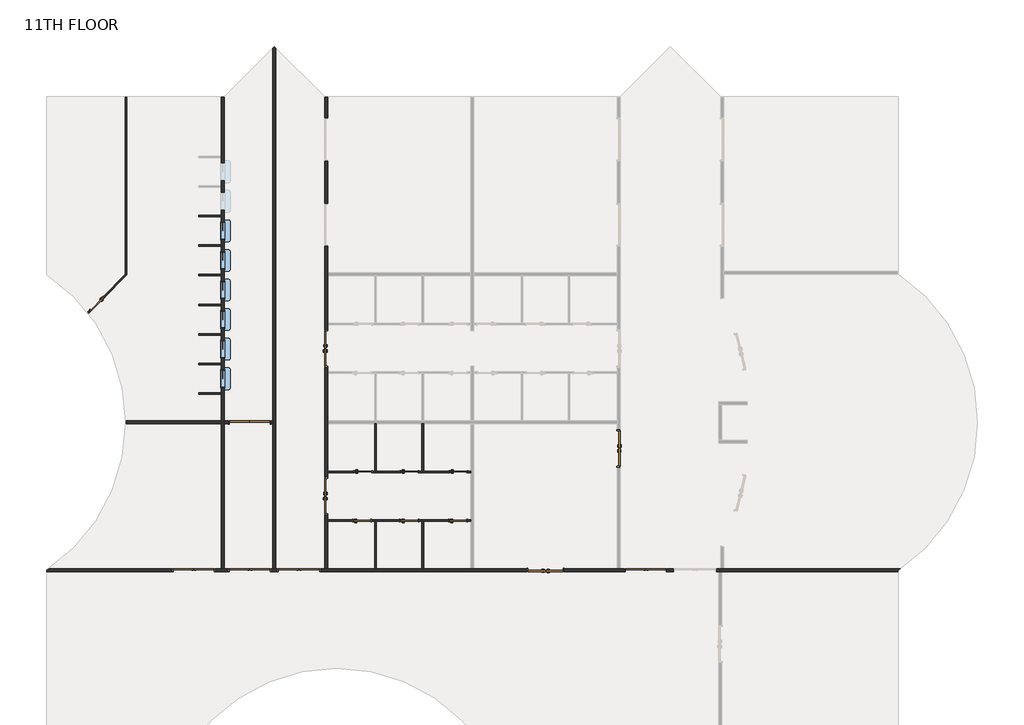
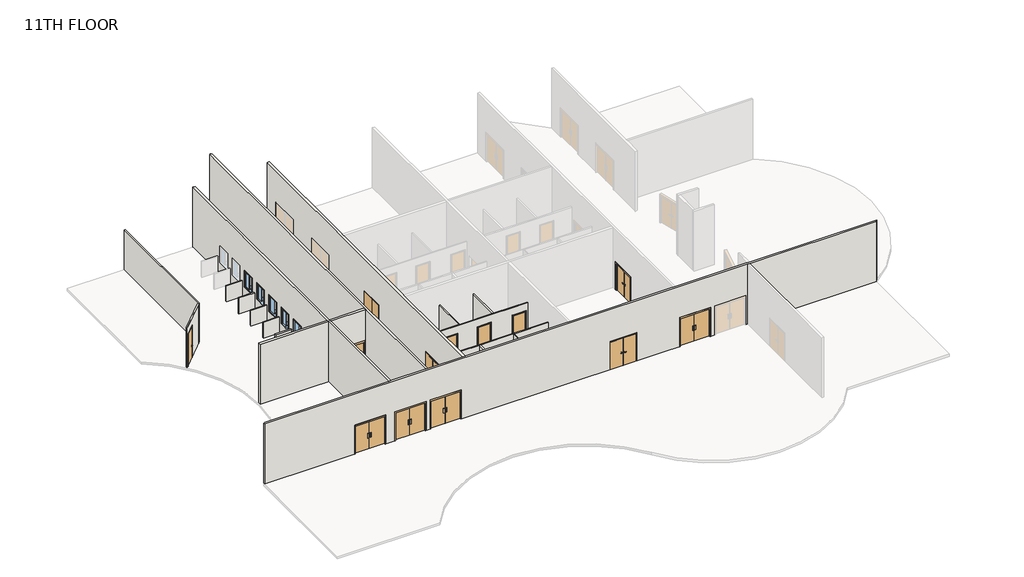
# One storey, part 1 of 2: 20 walls, 16 doors, 6 windows.
"""IFC4 building model written with IfcOpenShell, lengths in millimetres."""

from ifc_helpers import new_model, si_unit, point, frame, frame_2d, origin, place, context, project, spatial, polyline, circle_curve, trimmed, segment, composite_curve, outline, extrude, faceted_brep, transform, mapped, element, save
from ifc_brep_helpers import plane_surface, cylinder_surface, revolved_surface, advanced_brep
from components import door_2f250f70, door_0b13e4d9, door_b3a27a16, door_979b1b8c, door_f8b587be, pass_thru_4x3_19d81059

model = new_model("IFC4")

# Units and contexts
model_context = context("Model", 3, world=origin())
ifc_project = project(units=[si_unit("LENGTHUNIT", "METRE", prefix="MILLI")], contexts=[model_context])

# Site, building, storey
site = spatial("IfcSite", under=ifc_project)
building = spatial("IfcBuilding", under=site)
storey = spatial("IfcBuildingStorey", under=building, Name="11TH FLOOR", Elevation=50292.0)

# Doors
placement = place(None, origin())
door_shape = door_2f250f70(model_context)
element("IfcDoor", 1, ObjectType="Door-Passage-Double-Flush : 72\" x 82\"", at=placement, inside=storey, context=model_context, shape_type="MappedRepresentation", body=[
    mapped(door_shape, transform((14556.3400257, 13109.575, 50292.0), x_axis=(0.0, 1.0, 0.0), y_axis=(-1.0, 0.0, 0.0), z_axis=(0.0, 0.0, 1.0))),
])
element("IfcDoor", 2, ObjectType="Door-Passage-Double-Flush : 72\" x 82\"", at=placement, inside=storey, context=model_context, shape_type="MappedRepresentation", body=[
    mapped(door_shape, transform((14556.3400257, 20729.575, 50292.0), x_axis=(0.0, 1.0, 0.0), y_axis=(-1.0, 0.0, 0.0), z_axis=(0.0, 0.0, 1.0))),
])
element("IfcDoor", 3, ObjectType="Door-Passage-Double-Flush : 72\" x 82\"", at=placement, inside=storey, context=model_context, shape_type="MappedRepresentation", body=[
    mapped(door_shape, transform((25872.8337757, 9305.925, 50292.0), x_axis=(-1.0, 0.0, 0.0), y_axis=(0.0, -1.0, 0.0), z_axis=(0.0, 0.0, 1.0))),
])
element("IfcDoor", 4, ObjectType="Door-Passage-Double-Flush : 72\" x 82\"", at=placement, inside=storey, context=model_context, shape_type="MappedRepresentation", body=[
    mapped(door_shape, transform((29628.0650257, 15571.7875, 50292.0), x_axis=(0.0, -1.0, 0.0), y_axis=(1.0, 0.0, 0.0), z_axis=(0.0, 0.0, 1.0))),
])
door_2_shape = door_0b13e4d9(model_context)
element("IfcDoor", 5, ObjectType="Door-Passage-Double-Flush-Dbl_Acting : 84\" x 84\"", at=placement, inside=storey, context=model_context, shape_type="MappedRepresentation", body=[
    mapped(door_2_shape, transform((13151.4025257, 9293.225, 50292.0), x_axis=(-1.0, 0.0, 0.0), y_axis=(0.0, -1.0, 0.0), z_axis=(0.0, 0.0, 1.0))),
])
door_3_shape = door_b3a27a16(model_context)
element("IfcDoor", 6, ObjectType="Door-Passage-Double-Flush-Dbl_Acting : 84\" x 84\"", at=placement, inside=storey, context=model_context, shape_type="MappedRepresentation", body=[
    mapped(door_3_shape, transform((31033.0025257, 9293.225, 50292.0), x_axis=(1.0, 0.0, 0.0), y_axis=(0.0, 1.0, 0.0), z_axis=(0.0, 0.0, 1.0))),
])
element("IfcDoor", 7, ObjectType="Door-Passage-Double-Flush-Dbl_Acting : 84\" x 84\"", at=placement, inside=storey, context=model_context, shape_type="MappedRepresentation", body=[
    mapped(door_3_shape, transform((10620.375, 9293.225, 50292.0), x_axis=(1.0, 0.0, 0.0), y_axis=(0.0, 1.0, 0.0), z_axis=(0.0, 0.0, 1.0))),
])
element("IfcDoor", 8, ObjectType="Door-Passage-Double-Flush-Dbl_Acting : 84\" x 84\"", at=placement, inside=storey, context=model_context, shape_type="MappedRepresentation", body=[
    mapped(door_3_shape, transform((7730.5724743, 9293.225, 50292.0), x_axis=(1.0, 0.0, 0.0), y_axis=(0.0, 1.0, 0.0), z_axis=(0.0, 0.0, 1.0))),
])
element("IfcDoor", 9, ObjectType="Door-Passage-Double-Flush-Dbl_Acting : 84\" x 84\"", at=placement, inside=storey, context=model_context, shape_type="MappedRepresentation", body=[
    mapped(door_3_shape, transform((10620.375, 16913.225, 50292.0), x_axis=(1.0, 0.0, 0.0), y_axis=(0.0, 1.0, 0.0), z_axis=(0.0, 0.0, 1.0))),
])
door_4_shape = door_979b1b8c(model_context)
element("IfcDoor", 10, ObjectType="Door-Passage-Single-Flush : 36\" x 96\"", at=placement, inside=storey, context=model_context, shape_type="MappedRepresentation", body=[
    mapped(door_4_shape, transform((16456.5775257, 14357.35, 50292.0), x_axis=(1.0, 0.0, 0.0), y_axis=(0.0, 1.0, 0.0), z_axis=(0.0, 0.0, 1.0))),
])
element("IfcDoor", 11, ObjectType="Door-Passage-Single-Flush : 36\" x 96\"", at=placement, inside=storey, context=model_context, shape_type="MappedRepresentation", body=[
    mapped(door_4_shape, transform((18855.2900257, 14357.35, 50292.0), x_axis=(1.0, 0.0, 0.0), y_axis=(0.0, 1.0, 0.0), z_axis=(0.0, 0.0, 1.0))),
])
element("IfcDoor", 12, ObjectType="Door-Passage-Single-Flush : 36\" x 96\"", at=placement, inside=storey, context=model_context, shape_type="MappedRepresentation", body=[
    mapped(door_4_shape, transform((21373.0650257, 14357.35, 50292.0), x_axis=(1.0, 0.0, 0.0), y_axis=(0.0, 1.0, 0.0), z_axis=(0.0, 0.0, 1.0))),
])
element("IfcDoor", 13, ObjectType="Door-Passage-Single-Flush : 36\" x 96\"", at=placement, inside=storey, context=model_context, shape_type="MappedRepresentation", body=[
    mapped(door_4_shape, transform((2731.3607977, 23031.2061406, 50292.0), x_axis=(-0.7071067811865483, -0.7071067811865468, 0.0), y_axis=(0.7071067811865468, -0.7071067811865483, 0.0), z_axis=(0.0, 0.0, 1.0))),
])
door_5_shape = door_f8b587be(model_context)
element("IfcDoor", 14, ObjectType="Door-Passage-Single-Flush : 36\" x 96\"", at=placement, inside=storey, context=model_context, shape_type="MappedRepresentation", body=[
    mapped(door_5_shape, transform((16405.7775257, 11861.8, 50292.0), x_axis=(1.0, 0.0, 0.0), y_axis=(0.0, 1.0, 0.0), z_axis=(0.0, 0.0, 1.0))),
])
element("IfcDoor", 15, ObjectType="Door-Passage-Single-Flush : 36\" x 96\"", at=placement, inside=storey, context=model_context, shape_type="MappedRepresentation", body=[
    mapped(door_5_shape, transform((18836.2400257, 11861.8, 50292.0), x_axis=(1.0, 0.0, 0.0), y_axis=(0.0, 1.0, 0.0), z_axis=(0.0, 0.0, 1.0))),
])
element("IfcDoor", 16, ObjectType="Door-Passage-Single-Flush : 36\" x 96\"", at=placement, inside=storey, context=model_context, shape_type="MappedRepresentation", body=[
    mapped(door_5_shape, transform((21354.0150257, 11861.8, 50292.0), x_axis=(1.0, 0.0, 0.0), y_axis=(0.0, 1.0, 0.0), z_axis=(0.0, 0.0, 1.0))),
])

# Walls
element("IfcWall", 17, ObjectType="SYR_INT_ONE_HOUR", at=placement, inside=storey, context=model_context, shape_type="SweptSolid", body=[
    extrude(outline(polyline([(17066.1775257, 14403.3875), (17066.1775257, 16841.7875), (17145.5525257, 16841.7875), (17145.5525257, 14403.3875), (17066.1775257, 14403.3875)])), frame((0.0, 0.0, 50292.0), z_axis=(0.0, 0.0, 1.0), x_axis=(1.0, 0.0, 0.0)), (0.0, 0.0, 1.0), 3048.0),
])
element("IfcWall", 18, ObjectType="SYR_INT_ONE_HOUR", at=placement, inside=storey, context=model_context, shape_type="SweptSolid", body=[
    extrude(outline(polyline([(19576.0150257, 11815.7625), (19576.0150257, 9377.3625), (19496.6400257, 9377.3625), (19496.6400257, 11815.7625), (19576.0150257, 11815.7625)])), frame((0.0, 0.0, 50292.0), z_axis=(0.0, 0.0, 1.0), x_axis=(1.0, 0.0, 0.0)), (0.0, 0.0, 1.0), 3048.0),
])
element("IfcWall", 19, ObjectType="SYR_INT_ONE_HOUR", at=placement, inside=storey, context=model_context, shape_type="Brep", body=[
    faceted_brep([(14627.7775257, 14403.3875, 53340.0), (17066.1775257, 14403.3875, 53340.0), (17145.5525257, 14403.3875, 53340.0), (19496.6400257, 14403.3875, 53340.0), (19576.0150257, 14403.3875, 53340.0), (22014.4150257, 14403.3875, 53340.0), (22014.4150257, 14403.3875, 50292.0), (21862.0150257, 14403.3875, 50292.0), (21862.0150257, 14403.3875, 52762.15), (20884.1150257, 14403.3875, 52762.15), (20884.1150257, 14403.3875, 50292.0), (19576.0150257, 14403.3875, 50292.0), (19496.6400257, 14403.3875, 50292.0), (19344.2400257, 14403.3875, 50292.0), (19344.2400257, 14403.3875, 52762.15), (18366.3400257, 14403.3875, 52762.15), (18366.3400257, 14403.3875, 50292.0), (17145.5525257, 14403.3875, 50292.0), (17066.1775257, 14403.3875, 50292.0), (16945.5275257, 14403.3875, 50292.0), (16945.5275257, 14403.3875, 52762.15), (15967.6275257, 14403.3875, 52762.15), (15967.6275257, 14403.3875, 50292.0), (14627.7775257, 14403.3875, 50292.0), (22014.4150257, 14324.0125, 53340.0), (14627.7775257, 14324.0125, 53340.0), (14627.7775257, 14324.0125, 50292.0), (15967.6275257, 14324.0125, 50292.0), (15967.6275257, 14324.0125, 52762.15), (16945.5275257, 14324.0125, 52762.15), (16945.5275257, 14324.0125, 50292.0), (18366.3400257, 14324.0125, 50292.0), (18366.3400257, 14324.0125, 52762.15), (19344.2400257, 14324.0125, 52762.15), (19344.2400257, 14324.0125, 50292.0), (20884.1150257, 14324.0125, 50292.0), (20884.1150257, 14324.0125, 52762.15), (21862.0150257, 14324.0125, 52762.15), (21862.0150257, 14324.0125, 50292.0), (22014.4150257, 14324.0125, 50292.0)], [[[0, 1, 2, 3, 4, 5, 6, 7, 8, 9, 10, 11, 12, 13, 14, 15, 16, 17, 18, 19, 20, 21, 22, 23]], [[24, 25, 26, 27, 28, 29, 30, 31, 32, 33, 34, 35, 36, 37, 38, 39]], [[6, 39, 38, 7]], [[26, 23, 22, 27]], [[30, 19, 18, 17, 16, 31]], [[34, 13, 12, 11, 10, 35]], [[5, 4, 3, 2, 1, 0, 25, 24]], [[0, 23, 26, 25]], [[6, 5, 24, 39]], [[29, 20, 19, 30]], [[20, 29, 28, 21]], [[21, 28, 27, 22]], [[14, 13, 34, 33]], [[15, 14, 33, 32]], [[16, 15, 32, 31]], [[37, 8, 7, 38]], [[8, 37, 36, 9]], [[9, 36, 35, 10]]]),
])
element("IfcWall", 20, ObjectType="SYR_INT_ONE_HOUR", at=placement, inside=storey, context=model_context, shape_type="Brep", body=[
    faceted_brep([(14627.7775257, 11895.1375, 53340.0), (22014.4150257, 11895.1375, 53340.0), (22014.4150257, 11895.1375, 50292.0), (21842.9650257, 11895.1375, 50292.0), (21842.9650257, 11895.1375, 52762.15), (20865.0650257, 11895.1375, 52762.15), (20865.0650257, 11895.1375, 50292.0), (19325.1900257, 11895.1375, 50292.0), (19325.1900257, 11895.1375, 52762.15), (18347.2900257, 11895.1375, 52762.15), (18347.2900257, 11895.1375, 50292.0), (16894.7275257, 11895.1375, 50292.0), (16894.7275257, 11895.1375, 52762.15), (15916.8275257, 11895.1375, 52762.15), (15916.8275257, 11895.1375, 50292.0), (14627.7775257, 11895.1375, 50292.0), (22014.4150257, 11815.7625, 53340.0), (19576.0150257, 11815.7625, 53340.0), (19496.6400257, 11815.7625, 53340.0), (17145.5525257, 11815.7625, 53340.0), (17066.1775257, 11815.7625, 53340.0), (14627.7775257, 11815.7625, 53340.0), (14627.7775257, 11815.7625, 50292.0), (15916.8275257, 11815.7625, 50292.0), (15916.8275257, 11815.7625, 52762.15), (16894.7275257, 11815.7625, 52762.15), (16894.7275257, 11815.7625, 50292.0), (17066.1775257, 11815.7625, 50292.0), (17145.5525257, 11815.7625, 50292.0), (18347.2900257, 11815.7625, 50292.0), (18347.2900257, 11815.7625, 52762.15), (19325.1900257, 11815.7625, 52762.15), (19325.1900257, 11815.7625, 50292.0), (19496.6400257, 11815.7625, 50292.0), (19576.0150257, 11815.7625, 50292.0), (20865.0650257, 11815.7625, 50292.0), (20865.0650257, 11815.7625, 52762.15), (21842.9650257, 11815.7625, 52762.15), (21842.9650257, 11815.7625, 50292.0), (22014.4150257, 11815.7625, 50292.0)], [[[0, 1, 2, 3, 4, 5, 6, 7, 8, 9, 10, 11, 12, 13, 14, 15]], [[16, 17, 18, 19, 20, 21, 22, 23, 24, 25, 26, 27, 28, 29, 30, 31, 32, 33, 34, 35, 36, 37, 38, 39]], [[2, 39, 38, 3]], [[22, 15, 14, 23]], [[26, 11, 10, 29, 28, 27]], [[32, 7, 6, 35, 34, 33]], [[1, 0, 21, 20, 19, 18, 17, 16]], [[0, 15, 22, 21]], [[2, 1, 16, 39]], [[25, 12, 11, 26]], [[12, 25, 24, 13]], [[13, 24, 23, 14]], [[31, 8, 7, 32]], [[8, 31, 30, 9]], [[9, 30, 29, 10]], [[37, 4, 3, 38]], [[4, 37, 36, 5]], [[5, 36, 35, 6]]]),
])
element("IfcWall", 21, ObjectType="SYR_INT_ONE_HOUR", at=placement, inside=storey, context=model_context, shape_type="SweptSolid", body=[
    extrude(outline(polyline([(17066.1775257, 9377.3625), (17066.1775257, 11815.7625), (17145.5525257, 11815.7625), (17145.5525257, 9377.3625), (17066.1775257, 9377.3625)])), frame((0.0, 0.0, 50292.0), z_axis=(0.0, 0.0, 1.0), x_axis=(1.0, 0.0, 0.0)), (0.0, 0.0, 1.0), 3048.0),
])
element("IfcWall", 22, ObjectType="SYR_INT_ONE_HOUR", at=placement, inside=storey, context=model_context, shape_type="SweptSolid", body=[
    extrude(outline(polyline([(19576.0150257, 16841.7875), (19576.0150257, 14403.3875), (19496.6400257, 14403.3875), (19496.6400257, 16841.7875), (19576.0150257, 16841.7875)])), frame((0.0, 0.0, 50292.0), z_axis=(0.0, 0.0, 1.0), x_axis=(1.0, 0.0, 0.0)), (0.0, 0.0, 1.0), 3048.0),
])
element("IfcWall", 23, ObjectType="SYR_INT_ONE_HOUR", at=placement, inside=storey, context=model_context, shape_type="SweptSolid", body=[
    extrude(outline(polyline([(7979.2710938, 18443.575), (9144.0, 18443.575), (9144.0, 18364.2), (7979.2710938, 18364.2), (7979.2710938, 18443.575)])), frame((0.0, 0.0, 50292.0), z_axis=(0.0, 0.0, 1.0), x_axis=(1.0, 0.0, 0.0)), (0.0, 0.0, 1.0), 1219.2),
])
element("IfcWall", 24, ObjectType="SYR_INT_ONE_HOUR", at=placement, inside=storey, context=model_context, shape_type="SweptSolid", body=[
    extrude(outline(polyline([(7979.2710938, 19967.575), (9144.0, 19967.575), (9144.0, 19888.2), (7979.2710938, 19888.2), (7979.2710938, 19967.575)])), frame((0.0, 0.0, 50292.0), z_axis=(0.0, 0.0, 1.0), x_axis=(1.0, 0.0, 0.0)), (0.0, 0.0, 1.0), 1219.2),
])
element("IfcWall", 25, ObjectType="SYR_INT_ONE_HOUR", at=placement, inside=storey, context=model_context, shape_type="SweptSolid", body=[
    extrude(outline(polyline([(7979.2710938, 21491.575), (9144.0, 21491.575), (9144.0, 21412.2), (7979.2710938, 21412.2), (7979.2710938, 21491.575)])), frame((0.0, 0.0, 50292.0), z_axis=(0.0, 0.0, 1.0), x_axis=(1.0, 0.0, 0.0)), (0.0, 0.0, 1.0), 1219.2),
])
element("IfcWall", 26, ObjectType="SYR_INT_ONE_HOUR", at=placement, inside=storey, context=model_context, shape_type="SweptSolid", body=[
    extrude(outline(polyline([(7979.2710938, 23015.575), (9144.0, 23015.575), (9144.0, 22936.2), (7979.2710938, 22936.2), (7979.2710938, 23015.575)])), frame((0.0, 0.0, 50292.0), z_axis=(0.0, 0.0, 1.0), x_axis=(1.0, 0.0, 0.0)), (0.0, 0.0, 1.0), 1219.2),
])
element("IfcWall", 27, ObjectType="SYR_INT_ONE_HOUR", at=placement, inside=storey, context=model_context, shape_type="SweptSolid", body=[
    extrude(outline(polyline([(7979.2710938, 24539.575), (9144.0, 24539.575), (9144.0, 24460.2), (7979.2710938, 24460.2), (7979.2710938, 24539.575)])), frame((0.0, 0.0, 50292.0), z_axis=(0.0, 0.0, 1.0), x_axis=(1.0, 0.0, 0.0)), (0.0, 0.0, 1.0), 1219.2),
])
element("IfcWall", 28, ObjectType="SYR_INT_ONE_HOUR", at=placement, inside=storey, context=model_context, shape_type="SweptSolid", body=[
    extrude(outline(polyline([(7979.2710938, 26063.575), (9144.0, 26063.575), (9144.0, 25984.2), (7979.2710938, 25984.2), (7979.2710938, 26063.575)])), frame((0.0, 0.0, 50292.0), z_axis=(0.0, 0.0, 1.0), x_axis=(1.0, 0.0, 0.0)), (0.0, 0.0, 1.0), 1219.2),
])
element("IfcWall", 29, ObjectType="SYR_INT_ONE_HOUR", at=placement, inside=storey, context=model_context, shape_type="SweptSolid", body=[
    extrude(outline(polyline([(7979.2710938, 27587.575), (9144.0, 27587.575), (9144.0, 27508.2), (7979.2710938, 27508.2), (7979.2710938, 27587.575)])), frame((0.0, 0.0, 50292.0), z_axis=(0.0, 0.0, 1.0), x_axis=(1.0, 0.0, 0.0)), (0.0, 0.0, 1.0), 1219.2),
])
element("IfcWall", 30, ObjectType="SYR_INT_ONE_HOUR", at=placement, inside=storey, context=model_context, shape_type="Brep", body=[
    faceted_brep([(4209.0224132, 33683.575, 50292.0), (4209.0224132, 24556.0141008, 50292.0), (4209.0224132, 24443.7608992, 50292.0), (4209.0224132, 24443.7608992, 53340.0), (4209.0224132, 24556.0141008, 53340.0), (4209.0224132, 33683.575, 53340.0), (4288.3974132, 33683.575, 50292.0), (4288.3974132, 33683.575, 53340.0), (4288.3974132, 24523.1358992, 53340.0), (4288.3974132, 24523.1358992, 50292.0)], [[[0, 1, 2, 3, 4, 5]], [[6, 7, 8, 9]], [[2, 1, 0, 6, 9]], [[5, 4, 3, 8, 7]], [[3, 2, 9, 8]], [[0, 5, 7, 6]]]),
])
element("IfcWall", 31, ObjectType="SYR_INT_ONE_HOUR", at=placement, inside=storey, context=model_context, shape_type="AdvancedBrep", body=[
    advanced_brep(
    [(2260.5955581, 22607.5872456, 53340.0), (4209.0224132, 24556.0141008, 53340.0), (4209.0224132, 24556.0141008, 50292.0), (3053.527486, 23400.5191735, 50292.0), (3053.527486, 23400.5191735, 52762.15), (2362.0477647, 22709.0394522, 52762.15), (2362.0477647, 22709.0394522, 50292.0), (2260.5955581, 22607.5872456, 50292.0), (4209.0224132, 24443.7608992, 53340.0), (2310.04482, 22544.783306, 53340.0), (2310.04482, 22544.783306, 50292.0), (2418.1743655, 22652.9128515, 50292.0), (2418.1743655, 22652.9128515, 52762.15), (3109.6540868, 23344.3925728, 52762.15), (3109.6540868, 23344.3925728, 50292.0), (4209.0224132, 24443.7608992, 50292.0)],
    [
        (0, 1),
        (1, 2),
        (2, 3),
        (3, 4),
        (4, 5),
        (5, 6),
        (6, 7),
        (7, 0),
        (8, 9),
        (9, 10),
        (10, 11),
        (11, 12),
        (12, 13),
        (13, 14),
        (14, 15),
        (15, 8),
        (2, 15),
        (14, 3),
        (10, 7, circle_curve(frame((-4898.9611805, 16919.575, 50292.0), z_axis=(0.0, 0.0, 1.0), x_axis=(1.0, 0.0, 0.0)), 9144.0)),
        (6, 11),
        (0, 9, circle_curve(frame((-4898.9611805, 16919.575, 53340.0), z_axis=(0.0, 0.0, -1.0), x_axis=(1.0, 0.0, 0.0)), 9144.0)),
        (8, 1),
        (5, 12),
        (4, 13),
    ],
    [
        plane_surface(frame((4220.6466129, 24567.6383004, 50292.0), z_axis=(-0.7071067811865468, 0.7071067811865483, 0.0), x_axis=(-0.7071067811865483, -0.7071067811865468, 0.0))),
        plane_surface(frame((4276.7732136, 24511.5116996, 50292.0), z_axis=(0.7071067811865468, -0.7071067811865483, 0.0), x_axis=(0.7071067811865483, 0.7071067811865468, 0.0))),
        plane_surface(frame((4220.6466129, 24567.6383004, 50292.0), z_axis=(0.0, 0.0, -1.0), x_axis=(0.7071067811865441, -0.7071067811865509, 0.0))),
        plane_surface(frame((2146.5216178, 22493.5133053, 53340.0), z_axis=(0.0, 0.0, 1.0000000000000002), x_axis=(0.7071067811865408, -0.7071067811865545, 0.0))),
        plane_surface(frame((4209.0224132, 33778.5769531, 50292.0), z_axis=(1.0, 0.0, 0.0), x_axis=(0.0, -1.0, 0.0))),
        plane_surface(frame((1284.4170302, 23786.6701867, 50292.0), z_axis=(0.7071067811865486, 0.7071067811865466, 0.0), x_axis=(0.7071067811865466, -0.7071067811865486, 0.0))),
        plane_surface(frame((1284.4170302, 23786.6701867, 52762.15), z_axis=(0.0, 0.0, -1.0), x_axis=(0.7071067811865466, -0.7071067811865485, 0.0))),
        plane_surface(frame((1975.8967515, 24478.1499081, 52762.15), z_axis=(-0.7071067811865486, -0.7071067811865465, 0.0), x_axis=(0.7071067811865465, -0.7071067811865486, 0.0))),
        revolved_surface(polyline([(4245.0388195, 16919.575, 53340.0), (4245.0388195, 16919.575, 50292.0)]), (-4898.9611805, 16919.575, 0.0), (0.0, 0.0, 1.0)),
    ],
    [
        (0, [[1, 2, 3, 4, 5, 6, 7, 8]]),
        (1, [[9, 10, 11, 12, 13, 14, 15, 16]]),
        (2, [[17, -15, 18, -3]]),
        (2, [[19, -7, 20, -11]]),
        (3, [[-1, 21, -9, 22]]),
        (4, [[-2, -22, -16, -17]]),
        (5, [[23, -12, -20, -6]]),
        (6, [[-23, -5, 24, -13]]),
        (7, [[-24, -4, -18, -14]]),
        (8, [[-8, -19, -10, -21]]),
    ],
),
])
element("IfcWall", 32, ObjectType="SYR_INT_TWO_HOUR", at=placement, inside=storey, context=model_context, shape_type="AdvancedBrep", body=[
    advanced_brep(
    [(270.9292057, 9377.3625, 54864.0), (9144.0, 9377.3625, 54864.0), (9299.575, 9377.3625, 54864.0), (11808.1012629, 9377.3625, 54864.0), (11963.6762629, 9377.3625, 54864.0), (14472.2025257, 9377.3625, 54864.0), (14627.7775257, 9377.3625, 54864.0), (22014.4150257, 9377.3625, 54864.0), (22169.9900257, 9377.3625, 54864.0), (29556.6275257, 9377.3625, 54864.0), (29712.2025257, 9377.3625, 54864.0), (34884.8300515, 9377.3625, 54864.0), (35040.4050515, 9377.3625, 54864.0), (44144.1842571, 9377.3625, 54864.0), (44144.1842571, 9377.3625, 50292.0), (35040.4050515, 9377.3625, 50292.0), (34884.8300515, 9377.3625, 50292.0), (34681.6300515, 9377.3625, 50292.0), (34681.6300515, 9377.3625, 52527.2), (32446.4300515, 9377.3625, 52527.2), (32446.4300515, 9377.3625, 50292.0), (32150.6025257, 9377.3625, 50292.0), (32150.6025257, 9377.3625, 52527.2), (29915.4025257, 9377.3625, 52527.2), (29915.4025257, 9377.3625, 50292.0), (29712.2025257, 9377.3625, 50292.0), (29556.6275257, 9377.3625, 50292.0), (26838.0337757, 9377.3625, 50292.0), (26838.0337757, 9377.3625, 52476.4), (24907.6337757, 9377.3625, 52476.4), (24907.6337757, 9377.3625, 50292.0), (22169.9900257, 9377.3625, 50292.0), (22014.4150257, 9377.3625, 50292.0), (19576.0150257, 9377.3625, 50292.0), (19496.6400257, 9377.3625, 50292.0), (17145.5525257, 9377.3625, 50292.0), (17066.1775257, 9377.3625, 50292.0), (14627.7775257, 9377.3625, 50292.0), (14472.2025257, 9377.3625, 50292.0), (14269.0025257, 9377.3625, 50292.0), (14269.0025257, 9377.3625, 52527.2), (12033.8025257, 9377.3625, 52527.2), (12033.8025257, 9377.3625, 50292.0), (11963.6762629, 9377.3625, 50292.0), (11808.1012629, 9377.3625, 50292.0), (11737.975, 9377.3625, 50292.0), (11737.975, 9377.3625, 52527.2), (9502.775, 9377.3625, 52527.2), (9502.775, 9377.3625, 50292.0), (9299.575, 9377.3625, 50292.0), (9144.0, 9377.3625, 50292.0), (8848.1724743, 9377.3625, 50292.0), (8848.1724743, 9377.3625, 52527.2), (6612.9724743, 9377.3625, 52527.2), (6612.9724743, 9377.3625, 50292.0), (270.9292057, 9377.3625, 50292.0), (155.575, 9221.7875, 54864.0), (155.575, 9221.7875, 50292.0), (6612.9724743, 9221.7875, 50292.0), (6612.9724743, 9221.7875, 52527.2), (8848.1724743, 9221.7875, 52527.2), (8848.1724743, 9221.7875, 50292.0), (9502.775, 9221.7875, 50292.0), (9502.775, 9221.7875, 52527.2), (11737.975, 9221.7875, 52527.2), (11737.975, 9221.7875, 50292.0), (12033.8025257, 9221.7875, 50292.0), (12033.8025257, 9221.7875, 52527.2), (14269.0025257, 9221.7875, 52527.2), (14269.0025257, 9221.7875, 50292.0), (24907.6337757, 9221.7875, 50292.0), (24907.6337757, 9221.7875, 52476.4), (26838.0337757, 9221.7875, 52476.4), (26838.0337757, 9221.7875, 50292.0), (29915.4025257, 9221.7875, 50292.0), (29915.4025257, 9221.7875, 52527.2), (32150.6025257, 9221.7875, 52527.2), (32150.6025257, 9221.7875, 50292.0), (32446.4300515, 9221.7875, 50292.0), (32446.4300515, 9221.7875, 52527.2), (34681.6300515, 9221.7875, 52527.2), (34681.6300515, 9221.7875, 50292.0), (34803.3714577, 9221.7875, 50292.0), (34958.9464577, 9221.7875, 50292.0), (44028.8300515, 9221.7875, 50292.0), (44028.8300515, 9221.7875, 54864.0), (34958.9464577, 9221.7875, 54864.0), (34803.3714577, 9221.7875, 54864.0), (44028.8300515, 9299.575, 50292.0), (155.575, 9299.575, 50292.0), (155.575, 9299.575, 54864.0), (44028.8300515, 9299.575, 54864.0)],
    [
        (0, 1),
        (1, 2),
        (2, 3),
        (3, 4),
        (4, 5),
        (5, 6),
        (6, 7),
        (7, 8),
        (8, 9),
        (9, 10),
        (10, 11),
        (11, 12),
        (12, 13),
        (13, 14),
        (14, 15),
        (15, 16),
        (16, 17),
        (17, 18),
        (18, 19),
        (19, 20),
        (20, 21),
        (21, 22),
        (22, 23),
        (23, 24),
        (24, 25),
        (25, 26),
        (26, 27),
        (27, 28),
        (28, 29),
        (29, 30),
        (30, 31),
        (31, 32),
        (32, 33),
        (33, 34),
        (34, 35),
        (35, 36),
        (36, 37),
        (37, 38),
        (38, 39),
        (39, 40),
        (40, 41),
        (41, 42),
        (42, 43),
        (43, 44),
        (44, 45),
        (45, 46),
        (46, 47),
        (47, 48),
        (48, 49),
        (49, 50),
        (50, 51),
        (51, 52),
        (52, 53),
        (53, 54),
        (54, 55),
        (55, 0),
        (56, 57),
        (57, 58),
        (58, 59),
        (59, 60),
        (60, 61),
        (61, 62),
        (62, 63),
        (63, 64),
        (64, 65),
        (65, 66),
        (66, 67),
        (67, 68),
        (68, 69),
        (69, 70),
        (70, 71),
        (71, 72),
        (72, 73),
        (73, 74),
        (74, 75),
        (75, 76),
        (76, 77),
        (77, 78),
        (78, 79),
        (79, 80),
        (80, 81),
        (81, 82),
        (82, 83),
        (83, 84),
        (84, 85),
        (85, 86),
        (86, 87),
        (87, 56),
        (20, 78),
        (77, 21),
        (81, 17),
        (14, 88, circle_curve(frame((38974.293871, 16919.575, 50292.0), z_axis=(0.0, 0.0, -1.0), x_axis=(0.8333333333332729, 0.5527707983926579, 0.0)), 9144.0)),
        (88, 84),
        (24, 74),
        (73, 27),
        (42, 66),
        (65, 45),
        (69, 39),
        (30, 70),
        (48, 62),
        (61, 51),
        (54, 58),
        (57, 89),
        (89, 55, circle_curve(frame((-4898.9611805, 16919.575, 50292.0), z_axis=(0.0, 0.0, 1.0), x_axis=(0.8333333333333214, 0.5527707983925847, 0.0)), 9144.0)),
        (0, 90, circle_curve(frame((-4898.9611805, 16919.575, 54864.0), z_axis=(0.0, 0.0, -1.0), x_axis=(0.8333333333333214, 0.5527707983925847, 0.0)), 9144.0)),
        (90, 56),
        (85, 91),
        (91, 13, circle_curve(frame((38974.293871, 16919.575, 54864.0), z_axis=(0.0, 0.0, 1.0), x_axis=(0.8333333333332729, 0.5527707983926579, 0.0)), 9144.0)),
        (19, 79),
        (18, 80),
        (76, 22),
        (75, 23),
        (41, 67),
        (40, 68),
        (64, 46),
        (63, 47),
        (60, 52),
        (59, 53),
        (29, 71),
        (28, 72),
        (89, 90),
        (91, 88),
    ],
    [
        plane_surface(frame((44028.8300515, 9377.3625, 50292.0), z_axis=(0.0, 1.0, 0.0), x_axis=(-1.0, 0.0, 0.0))),
        plane_surface(frame((44028.8300515, 9221.7875, 50292.0), z_axis=(0.0, -1.0, 0.0), x_axis=(1.0, 0.0, 0.0))),
        plane_surface(frame((44305.118871, 9377.3625, 50292.0), z_axis=(0.0, 0.0, -1.0), x_axis=(0.0, -1.0, 0.0))),
        plane_surface(frame((0.0, 9377.3625, 54864.0), z_axis=(0.0, 0.0, 1.0), x_axis=(0.0, -1.0, 0.0))),
        plane_surface(frame((32446.4300515, 10745.7875, 50292.0), z_axis=(1.0, 0.0, 0.0), x_axis=(0.0, -1.0, 0.0))),
        plane_surface(frame((32446.4300515, 10745.7875, 52527.2), z_axis=(0.0, 0.0, -1.0), x_axis=(0.0, -1.0, 0.0))),
        plane_surface(frame((34681.6300515, 10745.7875, 52527.2), z_axis=(-1.0, 0.0, 0.0), x_axis=(0.0, -1.0, 0.0))),
        plane_surface(frame((32150.6025257, 7697.7875, 50292.0), z_axis=(-1.0, 0.0, 0.0), x_axis=(0.0, 1.0, 0.0))),
        plane_surface(frame((32150.6025257, 7697.7875, 52527.2), z_axis=(0.0, 0.0, -1.0), x_axis=(0.0, 1.0, 0.0))),
        plane_surface(frame((29915.4025257, 7697.7875, 52527.2), z_axis=(1.0, 0.0, 0.0), x_axis=(0.0, 1.0, 0.0))),
        plane_surface(frame((12033.8025257, 10745.7875, 50292.0), z_axis=(1.0, 0.0, 0.0), x_axis=(0.0, -1.0, 0.0))),
        plane_surface(frame((12033.8025257, 10745.7875, 52527.2), z_axis=(0.0, 0.0, -1.0), x_axis=(0.0, -1.0, 0.0))),
        plane_surface(frame((14269.0025257, 10745.7875, 52527.2), z_axis=(-1.0, 0.0, 0.0), x_axis=(0.0, -1.0, 0.0))),
        plane_surface(frame((11737.975, 7697.7875, 50292.0), z_axis=(-1.0, 0.0, 0.0), x_axis=(0.0, 1.0, 0.0))),
        plane_surface(frame((11737.975, 7697.7875, 52527.2), z_axis=(0.0, 0.0, -1.0), x_axis=(0.0, 1.0, 0.0))),
        plane_surface(frame((9502.775, 7697.7875, 52527.2), z_axis=(1.0, 0.0, 0.0), x_axis=(0.0, 1.0, 0.0))),
        plane_surface(frame((8848.1724743, 7697.7875, 50292.0), z_axis=(-1.0, 0.0, 0.0), x_axis=(0.0, 1.0, 0.0))),
        plane_surface(frame((8848.1724743, 7697.7875, 52527.2), z_axis=(0.0, 0.0, -1.0), x_axis=(0.0, 1.0, 0.0))),
        plane_surface(frame((6612.9724743, 7697.7875, 52527.2), z_axis=(1.0, 0.0, 0.0), x_axis=(0.0, 1.0, 0.0))),
        plane_surface(frame((24907.6337757, 10901.3625, 50292.0), z_axis=(1.0, 0.0, 0.0), x_axis=(0.0, -1.0, 0.0))),
        plane_surface(frame((24907.6337757, 10901.3625, 52476.4), z_axis=(0.0, 0.0, -1.0), x_axis=(0.0, -1.0, 0.0))),
        plane_surface(frame((26838.0337757, 10901.3625, 52476.4), z_axis=(-1.0, 0.0, 0.0), x_axis=(0.0, -1.0, 0.0))),
        revolved_surface(polyline([(2721.0388194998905, 21974.111180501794, 54864.0), (2721.0388194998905, 21974.111180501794, 50292.0)]), (-4898.9611805, 16919.575, 50063.4), (0.0, 0.0, 1.0)),
        plane_surface(frame((155.575, -12852.9844355, 50063.4), z_axis=(-1.0, 0.0, 0.0), x_axis=(0.0, -1.0, 0.0))),
        cylinder_surface(frame((38974.293871, 16919.575, 50063.4), z_axis=(0.0, 0.0, 1.0), x_axis=(0.8333333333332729, 0.5527707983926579, 0.0)), 9144.0),
        plane_surface(frame((44028.8300515, -12852.9844355, 50063.4), z_axis=(1.0, 0.0, 0.0), x_axis=(0.0, 1.0, 0.0))),
    ],
    [
        (0, [[1, 2, 3, 4, 5, 6, 7, 8, 9, 10, 11, 12, 13, 14, 15, 16, 17, 18, 19, 20, 21, 22, 23, 24, 25, 26, 27, 28, 29, 30, 31, 32, 33, 34, 35, 36, 37, 38, 39, 40, 41, 42, 43, 44, 45, 46, 47, 48, 49, 50, 51, 52, 53, 54, 55, 56]]),
        (1, [[57, 58, 59, 60, 61, 62, 63, 64, 65, 66, 67, 68, 69, 70, 71, 72, 73, 74, 75, 76, 77, 78, 79, 80, 81, 82, 83, 84, 85, 86, 87, 88]]),
        (2, [[89, -78, 90, -21]]),
        (2, [[91, -17, -16, -15, 92, 93, -84, -83, -82]]),
        (2, [[94, -74, 95, -27, -26, -25]]),
        (2, [[96, -66, 97, -45, -44, -43]]),
        (2, [[98, -39, -38, -37, -36, -35, -34, -33, -32, -31, 99, -70]]),
        (2, [[100, -62, 101, -51, -50, -49]]),
        (2, [[-55, 102, -58, 103, 104]]),
        (3, [[-13, -12, -11, -10, -9, -8, -7, -6, -5, -4, -3, -2, -1, 105, 106, -88, -87, -86, 107, 108]]),
        (4, [[109, -79, -89, -20]]),
        (5, [[-109, -19, 110, -80]]),
        (6, [[-110, -18, -91, -81]]),
        (7, [[111, -22, -90, -77]]),
        (8, [[-111, -76, 112, -23]]),
        (9, [[-112, -75, -94, -24]]),
        (10, [[113, -67, -96, -42]]),
        (11, [[-113, -41, 114, -68]]),
        (12, [[-114, -40, -98, -69]]),
        (13, [[115, -46, -97, -65]]),
        (14, [[-115, -64, 116, -47]]),
        (15, [[-116, -63, -100, -48]]),
        (16, [[117, -52, -101, -61]]),
        (17, [[-117, -60, 118, -53]]),
        (18, [[-118, -59, -102, -54]]),
        (19, [[119, -71, -99, -30]]),
        (20, [[-119, -29, 120, -72]]),
        (21, [[-120, -28, -95, -73]]),
        (22, [[-56, -104, 121, -105]]),
        (23, [[-57, -106, -121, -103]]),
        (24, [[-14, -108, 122, -92]]),
        (25, [[-85, -93, -122, -107]]),
    ],
),
])
element("IfcWall", 33, ObjectType="SYR_INT_TWO_HOUR", at=placement, inside=storey, context=model_context, shape_type="Brep", body=[
    faceted_brep([(9144.0, 33683.575, 50292.0), (9144.0, 30635.575, 50292.0), (9144.0, 30556.2, 50292.0), (9144.0, 29111.575, 50292.0), (9144.0, 29032.2, 50292.0), (9144.0, 27587.575, 50292.0), (9144.0, 27508.2, 50292.0), (9144.0, 26063.575, 50292.0), (9144.0, 25984.2, 50292.0), (9144.0, 24539.575, 50292.0), (9144.0, 24460.2, 50292.0), (9144.0, 23015.575, 50292.0), (9144.0, 22936.2, 50292.0), (9144.0, 21491.575, 50292.0), (9144.0, 21412.2, 50292.0), (9144.0, 19967.575, 50292.0), (9144.0, 19888.2, 50292.0), (9144.0, 18443.575, 50292.0), (9144.0, 18364.2, 50292.0), (9144.0, 16997.3625, 50292.0), (9144.0, 16841.7875, 50292.0), (9144.0, 9377.3625, 50292.0), (9144.0, 9377.3625, 54864.0), (9144.0, 16841.7875, 54864.0), (9144.0, 16997.3625, 54864.0), (9144.0, 33683.575, 54864.0), (9144.0, 19623.0875, 52425.6), (9144.0, 18708.6875, 52425.6), (9144.0, 18708.6875, 51206.4), (9144.0, 19623.0875, 51206.4), (9144.0, 21147.0875, 52425.6), (9144.0, 20232.6875, 52425.6), (9144.0, 20232.6875, 51206.4), (9144.0, 21147.0875, 51206.4), (9144.0, 22671.0875, 52425.6), (9144.0, 21756.6875, 52425.6), (9144.0, 21756.6875, 51206.4), (9144.0, 22671.0875, 51206.4), (9144.0, 24195.0875, 52425.6), (9144.0, 23280.6875, 52425.6), (9144.0, 23280.6875, 51206.4), (9144.0, 24195.0875, 51206.4), (9144.0, 25719.0875, 52425.6), (9144.0, 24804.6875, 52425.6), (9144.0, 24804.6875, 51206.4), (9144.0, 25719.0875, 51206.4), (9144.0, 27243.0875, 52425.6), (9144.0, 26328.6875, 52425.6), (9144.0, 26328.6875, 51206.4), (9144.0, 27243.0875, 51206.4), (9144.0, 28767.0875, 52425.6), (9144.0, 27852.6875, 52425.6), (9144.0, 27852.6875, 51206.4), (9144.0, 28767.0875, 51206.4), (9144.0, 30291.0875, 52425.6), (9144.0, 29376.6875, 52425.6), (9144.0, 29376.6875, 51206.4), (9144.0, 30291.0875, 51206.4), (9299.575, 33683.575, 50292.0), (9299.575, 33683.575, 54864.0), (9299.575, 16997.3625, 54864.0), (9299.575, 16841.7875, 54864.0), (9299.575, 9377.3625, 54864.0), (9299.575, 9377.3625, 50292.0), (9299.575, 16841.7875, 50292.0), (9299.575, 16997.3625, 50292.0), (9299.575, 19623.0875, 52425.6), (9299.575, 19623.0875, 51206.4), (9299.575, 18708.6875, 51206.4), (9299.575, 18708.6875, 52425.6), (9299.575, 21147.0875, 52425.6), (9299.575, 21147.0875, 51206.4), (9299.575, 20232.6875, 51206.4), (9299.575, 20232.6875, 52425.6), (9299.575, 22671.0875, 52425.6), (9299.575, 22671.0875, 51206.4), (9299.575, 21756.6875, 51206.4), (9299.575, 21756.6875, 52425.6), (9299.575, 24195.0875, 52425.6), (9299.575, 24195.0875, 51206.4), (9299.575, 23280.6875, 51206.4), (9299.575, 23280.6875, 52425.6), (9299.575, 25719.0875, 52425.6), (9299.575, 25719.0875, 51206.4), (9299.575, 24804.6875, 51206.4), (9299.575, 24804.6875, 52425.6), (9299.575, 27243.0875, 52425.6), (9299.575, 27243.0875, 51206.4), (9299.575, 26328.6875, 51206.4), (9299.575, 26328.6875, 52425.6), (9299.575, 28767.0875, 52425.6), (9299.575, 28767.0875, 51206.4), (9299.575, 27852.6875, 51206.4), (9299.575, 27852.6875, 52425.6), (9299.575, 30291.0875, 52425.6), (9299.575, 30291.0875, 51206.4), (9299.575, 29376.6875, 51206.4), (9299.575, 29376.6875, 52425.6)], [[[0, 1, 2, 3, 4, 5, 6, 7, 8, 9, 10, 11, 12, 13, 14, 15, 16, 17, 18, 19, 20, 21, 22, 23, 24, 25], [26, 27, 28, 29], [30, 31, 32, 33], [34, 35, 36, 37], [38, 39, 40, 41], [42, 43, 44, 45], [46, 47, 48, 49], [50, 51, 52, 53], [54, 55, 56, 57]], [[58, 59, 60, 61, 62, 63, 64, 65], [66, 67, 68, 69], [70, 71, 72, 73], [74, 75, 76, 77], [78, 79, 80, 81], [82, 83, 84, 85], [86, 87, 88, 89], [90, 91, 92, 93], [94, 95, 96, 97]], [[21, 20, 19, 18, 17, 16, 15, 14, 13, 12, 11, 10, 9, 8, 7, 6, 5, 4, 3, 2, 1, 0, 58, 65, 64, 63]], [[25, 24, 23, 22, 62, 61, 60, 59]], [[22, 21, 63, 62]], [[67, 66, 26, 29]], [[68, 67, 29, 28]], [[69, 68, 28, 27]], [[66, 69, 27, 26]], [[71, 70, 30, 33]], [[72, 71, 33, 32]], [[73, 72, 32, 31]], [[70, 73, 31, 30]], [[75, 74, 34, 37]], [[76, 75, 37, 36]], [[77, 76, 36, 35]], [[74, 77, 35, 34]], [[79, 78, 38, 41]], [[80, 79, 41, 40]], [[81, 80, 40, 39]], [[78, 81, 39, 38]], [[83, 82, 42, 45]], [[84, 83, 45, 44]], [[85, 84, 44, 43]], [[82, 85, 43, 42]], [[87, 86, 46, 49]], [[88, 87, 49, 48]], [[89, 88, 48, 47]], [[86, 89, 47, 46]], [[91, 90, 50, 53]], [[92, 91, 53, 52]], [[93, 92, 52, 51]], [[90, 93, 51, 50]], [[95, 94, 54, 57]], [[96, 95, 57, 56]], [[97, 96, 56, 55]], [[94, 97, 55, 54]], [[0, 25, 59, 58]]]),
])
element("IfcWall", 34, ObjectType="SYR_INT_TWO_HOUR", at=placement, inside=storey, context=model_context, shape_type="Brep", body=[
    faceted_brep([(14472.2025257, 9377.3625, 54864.0), (14472.2025257, 33683.575, 54864.0), (14472.2025257, 33683.575, 50292.0), (14472.2025257, 32616.775, 50292.0), (14472.2025257, 32616.775, 52527.2), (14472.2025257, 30381.575, 52527.2), (14472.2025257, 30381.575, 50292.0), (14472.2025257, 28219.4, 50292.0), (14472.2025257, 28219.4, 52527.2), (14472.2025257, 25984.2, 52527.2), (14472.2025257, 25984.2, 50292.0), (14472.2025257, 21694.775, 50292.0), (14472.2025257, 21694.775, 52476.4), (14472.2025257, 19764.375, 52476.4), (14472.2025257, 19764.375, 50292.0), (14472.2025257, 14074.775, 50292.0), (14472.2025257, 14074.775, 52476.4), (14472.2025257, 12144.375, 52476.4), (14472.2025257, 12144.375, 50292.0), (14472.2025257, 9377.3625, 50292.0), (14627.7775257, 33683.575, 54864.0), (14627.7775257, 24617.3625, 54864.0), (14627.7775257, 24461.7875, 54864.0), (14627.7775257, 16997.3625, 54864.0), (14627.7775257, 16841.7875, 54864.0), (14627.7775257, 9377.3625, 54864.0), (14627.7775257, 9377.3625, 50292.0), (14627.7775257, 11815.7625, 50292.0), (14627.7775257, 11895.1375, 50292.0), (14627.7775257, 12144.375, 50292.0), (14627.7775257, 12144.375, 52476.4), (14627.7775257, 14074.775, 52476.4), (14627.7775257, 14074.775, 50292.0), (14627.7775257, 14324.0125, 50292.0), (14627.7775257, 14403.3875, 50292.0), (14627.7775257, 16841.7875, 50292.0), (14627.7775257, 16997.3625, 50292.0), (14627.7775257, 19435.7625, 50292.0), (14627.7775257, 19515.1375, 50292.0), (14627.7775257, 19764.375, 50292.0), (14627.7775257, 19764.375, 52476.4), (14627.7775257, 21694.775, 52476.4), (14627.7775257, 21694.775, 50292.0), (14627.7775257, 21944.0125, 50292.0), (14627.7775257, 22023.3875, 50292.0), (14627.7775257, 24461.7875, 50292.0), (14627.7775257, 24617.3625, 50292.0), (14627.7775257, 25984.2, 50292.0), (14627.7775257, 25984.2, 52527.2), (14627.7775257, 28219.4, 52527.2), (14627.7775257, 28219.4, 50292.0), (14627.7775257, 30381.575, 50292.0), (14627.7775257, 30381.575, 52527.2), (14627.7775257, 32616.775, 52527.2), (14627.7775257, 32616.775, 50292.0), (14627.7775257, 33683.575, 50292.0)], [[[0, 1, 2, 3, 4, 5, 6, 7, 8, 9, 10, 11, 12, 13, 14, 15, 16, 17, 18, 19]], [[20, 21, 22, 23, 24, 25, 26, 27, 28, 29, 30, 31, 32, 33, 34, 35, 36, 37, 38, 39, 40, 41, 42, 43, 44, 45, 46, 47, 48, 49, 50, 51, 52, 53, 54, 55]], [[26, 19, 18, 29, 28, 27]], [[32, 15, 14, 39, 38, 37, 36, 35, 34, 33]], [[42, 11, 10, 47, 46, 45, 44, 43]], [[3, 2, 55, 54]], [[6, 51, 50, 7]], [[1, 0, 25, 24, 23, 22, 21, 20]], [[0, 19, 26, 25]], [[31, 16, 15, 32]], [[16, 31, 30, 17]], [[17, 30, 29, 18]], [[41, 12, 11, 42]], [[12, 41, 40, 13]], [[13, 40, 39, 14]], [[53, 4, 3, 54]], [[4, 53, 52, 5]], [[5, 52, 51, 6]], [[49, 8, 7, 50]], [[8, 49, 48, 9]], [[9, 48, 47, 10]], [[2, 1, 20, 55]]]),
])
element("IfcWall", 35, ObjectType="SYR_INT_TWO_HOUR", at=placement, inside=storey, context=model_context, shape_type="Brep", body=[
    faceted_brep([(11963.6762629, 9377.3625, 50292.0), (11963.6762629, 36192.1012629, 50292.0), (11963.6762629, 36192.1012629, 54864.0), (11963.6762629, 9377.3625, 54864.0), (11808.1012629, 9377.3625, 50292.0), (11808.1012629, 9377.3625, 54864.0), (11808.1012629, 16841.7875, 54864.0), (11808.1012629, 16997.3625, 54864.0), (11808.1012629, 36192.1012629, 54864.0), (11808.1012629, 36192.1012629, 50292.0), (11808.1012629, 16997.3625, 50292.0), (11808.1012629, 16841.7875, 50292.0), (11885.8887629, 36269.8887629, 50292.0), (11885.8887629, 36269.8887629, 54864.0)], [[[0, 1, 2, 3]], [[4, 5, 6, 7, 8, 9, 10, 11]], [[1, 0, 4, 11, 10, 9, 12]], [[3, 2, 13, 8, 7, 6, 5]], [[0, 3, 5, 4]], [[2, 1, 12, 13]], [[12, 9, 8, 13]]]),
])
element("IfcWall", 36, ObjectType="SYR_INT_TWO_HOUR", at=placement, inside=storey, context=model_context, shape_type="SweptSolid", body=[
    extrude(outline(polyline([(50292.0, 11808.1012629), (54864.0, 11808.1012629), (54864.0, 9299.575), (50292.0, 9299.575), (50292.0, 9502.775), (52527.2, 9502.775), (52527.2, 11737.975), (50292.0, 11737.975), (50292.0, 11808.1012629)])), frame((0.0, 16841.7875, 0.0), z_axis=(0.0, 1.0, 0.0), x_axis=(0.0, 0.0, 1.0)), (0.0, 0.0, 1.0), 155.575),
    extrude(outline(composite_curve([segment(trimmed(circle_curve(frame_2d((-4898.9611805, 16919.575)), 9144.0), [point((4244.7079465, 16841.7875))], [point((4244.7079465, 16997.3625))], True, "CARTESIAN"), True, "CONTINUOUS"), segment(polyline([(4244.7079465, 16997.3625), (9144.0, 16997.3625), (9144.0, 16841.7875), (4244.7079465, 16841.7875)]), True, "CONTINUOUS")], self_intersect=False)), frame((0.0, 0.0, 50292.0), z_axis=(0.0, 0.0, 1.0), x_axis=(1.0, 0.0, 0.0)), (0.0, 0.0, 1.0), 4572.0),
])

# Windows
pass_thru_4x3_shape = pass_thru_4x3_19d81059(model_context)
element("IfcWindow", 37, ObjectType="Pass thru : 4x3", at=placement, inside=storey, context=model_context, shape_type="MappedRepresentation", body=[
    mapped(pass_thru_4x3_shape, transform((9221.7875, 19165.8875, 50292.0), x_axis=(0.0, 1.0, 0.0), y_axis=(-1.0, 0.0, 0.0), z_axis=(0.0, 0.0, 1.0))),
])
element("IfcWindow", 38, ObjectType="Pass thru : 4x3", at=placement, inside=storey, context=model_context, shape_type="MappedRepresentation", body=[
    mapped(pass_thru_4x3_shape, transform((9221.7875, 20689.8875, 50292.0), x_axis=(0.0, 1.0, 0.0), y_axis=(-1.0, 0.0, 0.0), z_axis=(0.0, 0.0, 1.0))),
])
element("IfcWindow", 39, ObjectType="Pass thru : 4x3", at=placement, inside=storey, context=model_context, shape_type="MappedRepresentation", body=[
    mapped(pass_thru_4x3_shape, transform((9221.7875, 22213.8875, 50292.0), x_axis=(0.0, 1.0, 0.0), y_axis=(-1.0, 0.0, 0.0), z_axis=(0.0, 0.0, 1.0))),
])
element("IfcWindow", 40, ObjectType="Pass thru : 4x3", at=placement, inside=storey, context=model_context, shape_type="MappedRepresentation", body=[
    mapped(pass_thru_4x3_shape, transform((9221.7875, 23737.8875, 50292.0), x_axis=(0.0, 1.0, 0.0), y_axis=(-1.0, 0.0, 0.0), z_axis=(0.0, 0.0, 1.0))),
])
element("IfcWindow", 41, ObjectType="Pass thru : 4x3", at=placement, inside=storey, context=model_context, shape_type="MappedRepresentation", body=[
    mapped(pass_thru_4x3_shape, transform((9221.7875, 25261.8875, 50292.0), x_axis=(0.0, 1.0, 0.0), y_axis=(-1.0, 0.0, 0.0), z_axis=(0.0, 0.0, 1.0))),
])
element("IfcWindow", 42, ObjectType="Pass thru : 4x3", at=placement, inside=storey, context=model_context, shape_type="MappedRepresentation", body=[
    mapped(pass_thru_4x3_shape, transform((9221.7875, 26785.8875, 50292.0), x_axis=(0.0, 1.0, 0.0), y_axis=(-1.0, 0.0, 0.0), z_axis=(0.0, 0.0, 1.0))),
])

save(model, "model.ifc")
